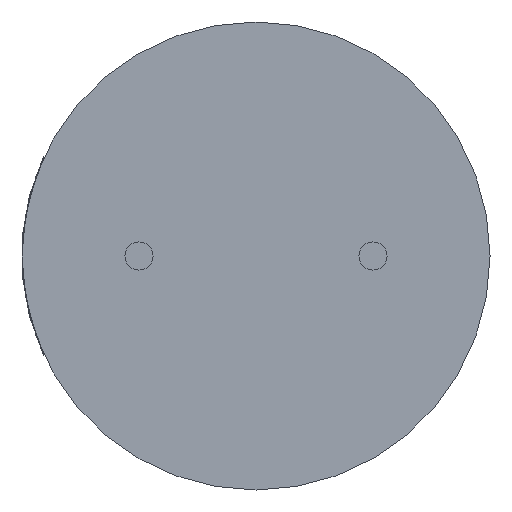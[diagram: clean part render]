
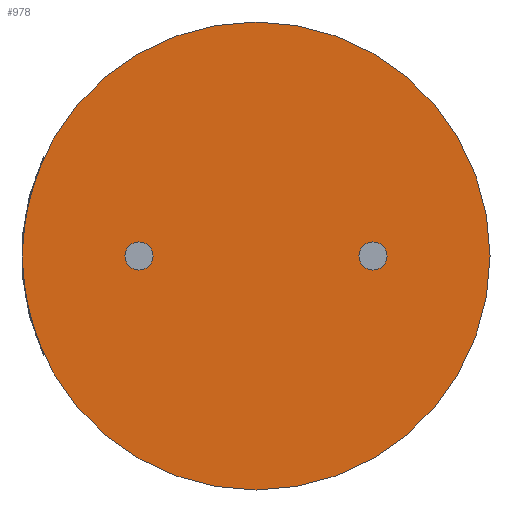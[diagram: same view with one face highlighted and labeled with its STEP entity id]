
A CAD part, front view. The second image highlights one B-rep face of the part: STEP entity #978.
In plain terms, the highlighted planar face has unit normal (0, -1, 0).
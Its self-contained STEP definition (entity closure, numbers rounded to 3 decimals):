
#910 = CARTESIAN_POINT ( 'NONE',  ( 0., 0., 5. ) ) ;
#911 = VERTEX_POINT ( 'NONE', #910 ) ;
#918 = CARTESIAN_POINT ( 'NONE',  ( 0., 0., -5. ) ) ;
#919 = VERTEX_POINT ( 'NONE', #918 ) ;
#920 = CARTESIAN_POINT ( 'NONE',  ( 0., 0., 0. ) ) ;
#921 = DIRECTION ( 'NONE',  ( 0., -1., 0. ) ) ;
#922 = DIRECTION ( 'NONE',  ( 0., 0., -1. ) ) ;
#923 = AXIS2_PLACEMENT_3D ( 'NONE', #920, #921, #922 ) ;
#924 = CIRCLE ( 'NONE', #923, 5.0) ;
#925 = EDGE_CURVE ( 'NONE', #919, #911, #924, .T. ) ;
#963 = ORIENTED_EDGE ( 'NONE', *, *, #925, .T. ) ;
#964 = CARTESIAN_POINT ( 'NONE',  ( 0., 0., 0. ) ) ;
#965 = DIRECTION ( 'NONE',  ( 0., -1., 0. ) ) ;
#966 = DIRECTION ( 'NONE',  ( 0., 0., -1. ) ) ;
#967 = AXIS2_PLACEMENT_3D ( 'NONE', #964, #965, #966 ) ;
#968 = CIRCLE ( 'NONE', #967, 5.0) ;
#969 = EDGE_CURVE ( 'NONE', #911, #919, #968, .T. ) ;
#970 = ORIENTED_EDGE ( 'NONE', *, *, #969, .T. ) ;
#971 = EDGE_LOOP ( 'NONE', ( #963, #970 ) ) ;
#972 = FACE_OUTER_BOUND ( 'NONE', #971, .T. ) ;
#973 = CARTESIAN_POINT ( 'NONE',  ( 5., 0., 0. ) ) ;
#974 = DIRECTION ( 'NONE',  ( 0., -1., 0. ) ) ;
#975 = DIRECTION ( 'NONE',  ( 0., 0., -1. ) ) ;
#976 = AXIS2_PLACEMENT_3D ( 'NONE', #973, #974, #975 ) ;
#977 = PLANE ( 'NONE', #976 ) ;
#978 = ADVANCED_FACE ( 'NONE', ( #972 ), #977, .T. ) ;
